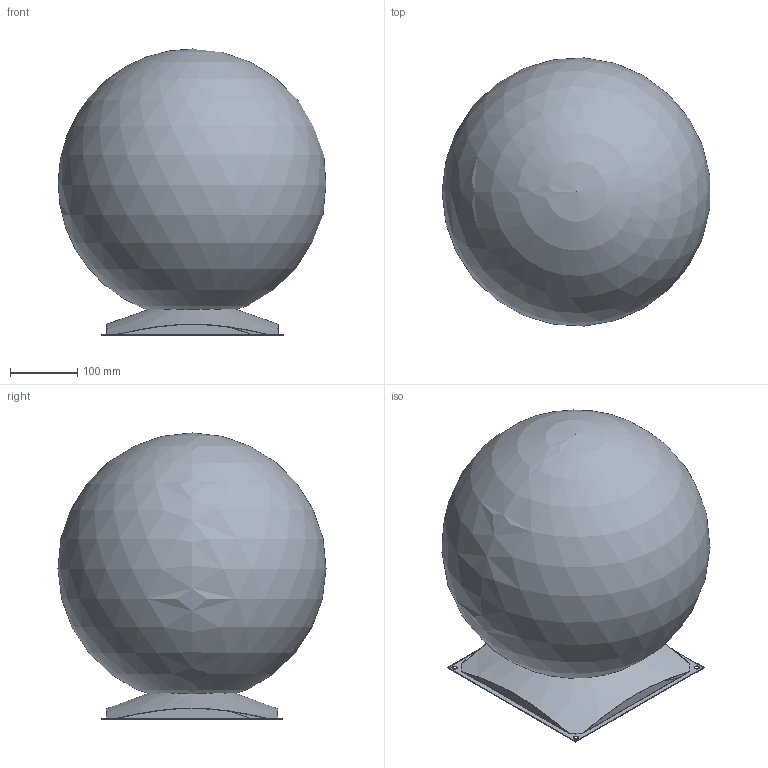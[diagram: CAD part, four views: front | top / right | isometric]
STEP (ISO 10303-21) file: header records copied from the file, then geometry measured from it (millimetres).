
FILE_DESCRIPTION(/* description */ (''),/* implementation_level */ '2;1');
FILE_NAME(/* name */ 'C:/Users/LukasGröber/GMS Cloud/Groeber Mannheim Lichtwerke - Dokumente/Marketing/Produkte/3D Daten/Snowball Edelstahlfuß/Snowball 40 Edelstahlfuß.step',/* time_stamp */ '2022-07-07T08:32:53+02:00',/* author */ (''),/* organization */ (''),/* preprocessor_version */ 'ST-DEVELOPER v19',/* originating_system */ 'Autodesk Translation Framework v11.7.0.108',/* authorisation */ '');
FILE_SCHEMA (('AUTOMOTIVE_DESIGN { 1 0 10303 214 3 1 1 }'));
Length unit declared in the file: millimetre
Products named in the file (3): Snowball 30 Edelstahlfuß; Edelstahlfuss-optisch; Snowball 400 Öffnung 80
Assembly tree (2 placements, depth 2):
  Snowball 30 Edelstahlfuß
    Edelstahlfuss-optisch
    Snowball 400 Öffnung 80
Bounding box: 398.61 x 399.29 x 425.96 mm (x, y, z)
Volume: 2468821.7 mm3; surface area: 1145208.6 mm2
Topology: 2 solids, 2 shells, 61 faces, 166 edges, 105 vertices
Faces by surface type: plane 46, cylinder 9, cone 4, sphere 2
Full cylindrical faces by diameter (mm): 7 x4, 8 x4, 80 x1
Entity records: 1999 total; most frequent: CARTESIAN_POINT 379, ORIENTED_EDGE 328, DIRECTION 326, EDGE_CURVE 164, AXIS2_PLACEMENT_3D 118, VERTEX_POINT 105, LINE 90, VECTOR 90
